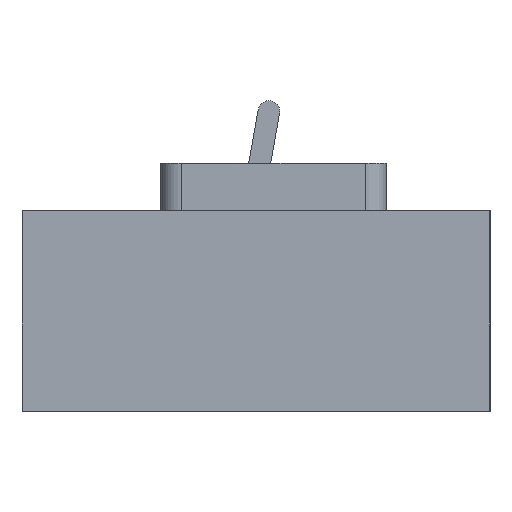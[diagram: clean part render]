
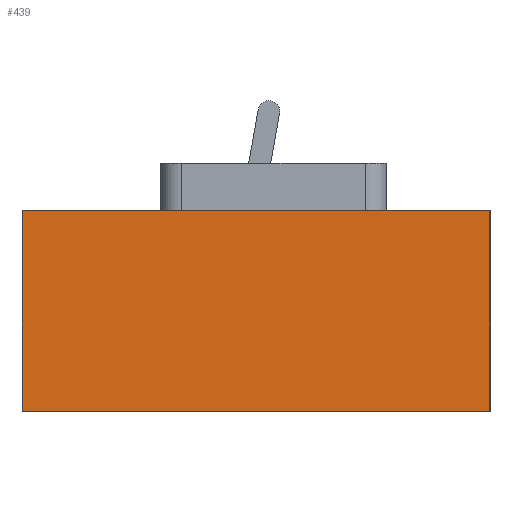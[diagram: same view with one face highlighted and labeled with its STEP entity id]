
A CAD part, left-side view. The second image highlights one B-rep face of the part: STEP entity #439.
In plain terms, the highlighted planar face has unit normal (-1, 0, 0).
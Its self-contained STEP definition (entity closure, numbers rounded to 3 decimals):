
#213 = AXIS2_PLACEMENT_3D ( 'NONE', #2959, #7648, #4548 ) ;
#379 = CARTESIAN_POINT ( 'NONE',  ( -112.5, 112., 96.05 ) ) ;
#439 = ADVANCED_FACE ( 'NONE', ( #1260 ), #3647, .F. ) ;
#826 = CARTESIAN_POINT ( 'NONE',  ( -112.5, 112., 96.05 ) ) ;
#1257 = DIRECTION ( 'NONE',  ( 0., -1., 0. ) ) ;
#1260 = FACE_OUTER_BOUND ( 'NONE', #5253, .T. ) ;
#1286 = LINE ( 'NONE', #8796, #5598 ) ;
#1819 = ORIENTED_EDGE ( 'NONE', *, *, #4770, .F. ) ;
#2225 = VECTOR ( 'NONE', #1257, 1000. ) ;
#2437 = CARTESIAN_POINT ( 'NONE',  ( -112.5, 112., 96.05 ) ) ;
#2618 = VECTOR ( 'NONE', #3489, 1000. ) ;
#2781 = VERTEX_POINT ( 'NONE', #6275 ) ;
#2959 = CARTESIAN_POINT ( 'NONE',  ( -112.5, 112., 96.05 ) ) ;
#3194 = CARTESIAN_POINT ( 'NONE',  ( -112.5, 112., 0. ) ) ;
#3213 = DIRECTION ( 'NONE',  ( 0., 0., -1. ) ) ;
#3489 = DIRECTION ( 'NONE',  ( 0., -1., 0. ) ) ;
#3588 = LINE ( 'NONE', #379, #2618 ) ;
#3647 = PLANE ( 'NONE',  #213 ) ;
#3705 = LINE ( 'NONE', #826, #4567 ) ;
#4548 = DIRECTION ( 'NONE',  ( 0., 1., 0. ) ) ;
#4567 = VECTOR ( 'NONE', #3213, 1000. ) ;
#4770 = EDGE_CURVE ( 'NONE', #2781, #9803, #1286, .T. ) ;
#5085 = ORIENTED_EDGE ( 'NONE', *, *, #7077, .F. ) ;
#5160 = VERTEX_POINT ( 'NONE', #3194 ) ;
#5253 = EDGE_LOOP ( 'NONE', ( #9969, #1819, #5085, #10035 ) ) ;
#5598 = VECTOR ( 'NONE', #8103, 1000. ) ;
#6275 = CARTESIAN_POINT ( 'NONE',  ( -112.5, -112., 96.05 ) ) ;
#6316 = VERTEX_POINT ( 'NONE', #2437 ) ;
#6694 = CARTESIAN_POINT ( 'NONE',  ( -112.5, -112., 0. ) ) ;
#7077 = EDGE_CURVE ( 'NONE', #6316, #2781, #3588, .T. ) ;
#7451 = EDGE_CURVE ( 'NONE', #6316, #5160, #3705, .T. ) ;
#7648 = DIRECTION ( 'NONE',  ( 1., 0., 0. ) ) ;
#7706 = LINE ( 'NONE', #9889, #2225 ) ;
#8103 = DIRECTION ( 'NONE',  ( 0., 0., -1. ) ) ;
#8796 = CARTESIAN_POINT ( 'NONE',  ( -112.5, -112., 96.05 ) ) ;
#9803 = VERTEX_POINT ( 'NONE', #6694 ) ;
#9889 = CARTESIAN_POINT ( 'NONE',  ( -112.5, 112., 0. ) ) ;
#9969 = ORIENTED_EDGE ( 'NONE', *, *, #10017, .T. ) ;
#10017 = EDGE_CURVE ( 'NONE', #5160, #9803, #7706, .T. ) ;
#10035 = ORIENTED_EDGE ( 'NONE', *, *, #7451, .T. ) ;
